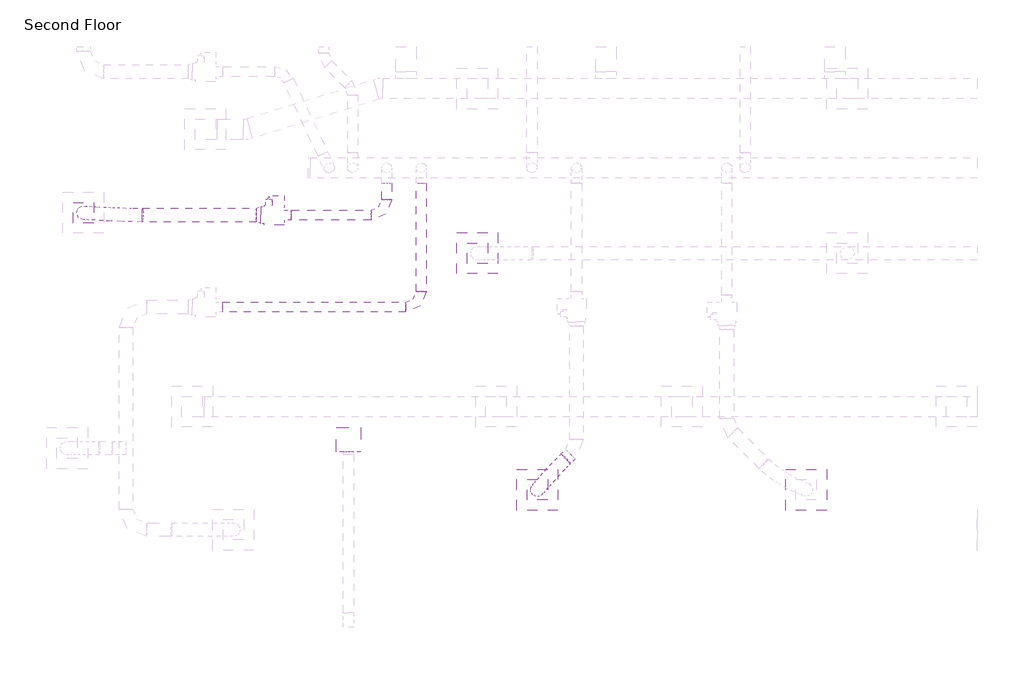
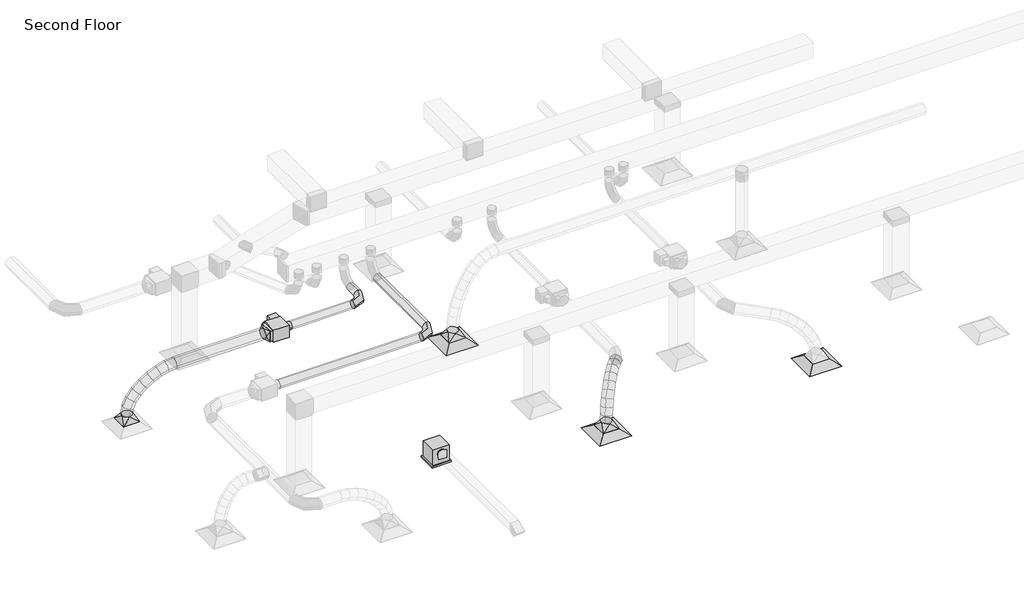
# One storey, part 2 of 44: 8 duct segments, 6 duct fittings, 3 air terminals, 2 proxies.
"""IFC4 building model written with IfcOpenShell, lengths in millimetres."""

from ifc_helpers import new_model, si_unit, point, frame, frame_2d, origin, place, context, project, spatial, circle_curve, ellipse_curve, trimmed, segment, composite_curve, outline, extrude, transform, mapped, element, save
from ifc_brep_helpers import plane_surface, cylinder_surface, advanced_brep
from components import m_exhaust_grill_er_600_x_600_face_300_x_300_connection_ff221211, proxy_47_84_lps_344db5a5, m_vav_unit_single_duct_150_mm_ffdab17b, m_rectangular_to_round_transition_angle_45_degree_60daae35, m_rectangular_to_round_transition_angle_45_degree_1b7ae117, m_round_elbow_1_5_d_2e586196

model = new_model("IFC4")

# Units and contexts
model_context = context("Model", 3, world=origin())
ifc_project = project(units=[si_unit("LENGTHUNIT", "METRE", prefix="MILLI")], contexts=[model_context])

# Site, building, storey
site = spatial("IfcSite", under=ifc_project)
building = spatial("IfcBuilding", under=site)
storey = spatial("IfcBuildingStorey", under=building, Name="Second Floor", Elevation=4570.0)

# Air terminals
placement = place(None, origin())
m_exhaust_grill_er_600_x_600_face_300_x_300_connection_shape = m_exhaust_grill_er_600_x_600_face_300_x_300_connection_ff221211(model_context)
element("IfcAirTerminal", 1, ObjectType="M_Supply Diffuser : SD-600 x 600 Face 300 x 300 Connection", at=placement, inside=storey, context=model_context, shape_type="MappedRepresentation", body=[
    mapped(m_exhaust_grill_er_600_x_600_face_300_x_300_connection_shape, transform((-35417.6922006, 11441.070624, 7250.0), x_axis=(1.0, 0.0, 0.0), y_axis=(0.0, 1.0, 0.0), z_axis=(0.0, 0.0, 1.0))),
])
element("IfcAirTerminal", 2, ObjectType="M_Supply Diffuser : SD-600 x 600 Face 300 x 300 Connection", at=placement, inside=storey, context=model_context, shape_type="MappedRepresentation", body=[
    mapped(m_exhaust_grill_er_600_x_600_face_300_x_300_connection_shape, transform((-39345.8517258, 11441.070624, 7250.0), x_axis=(1.0, 0.0, 0.0), y_axis=(0.0, 1.0, 0.0), z_axis=(0.0, 0.0, 1.0))),
])
element("IfcAirTerminal", 3, ObjectType="M_Supply Diffuser : SD-600 x 600 Face 300 x 300 Connection", at=placement, inside=storey, context=model_context, shape_type="MappedRepresentation", body=[
    mapped(m_exhaust_grill_er_600_x_600_face_300_x_300_connection_shape, transform((-40222.3950538, 14899.476398, 7250.0), x_axis=(1.0, 0.0, 0.0), y_axis=(0.0, 1.0, 0.0), z_axis=(0.0, 0.0, 1.0))),
])

# Proxies
proxy_47_84_lps_shape = proxy_47_84_lps_344db5a5(model_context)
element("IfcBuildingElementProxy", 4, Name="M_Exhaust Unit with Cabinet - Round Connection - Ceiling Mounted : 47-84 LPS", ObjectType="M_Exhaust Unit with Cabinet - Round Connection - Ceiling Mounted : 47-84 LPS", at=placement, inside=storey, context=model_context, shape_type="MappedRepresentation", body=[
    mapped(proxy_47_84_lps_shape, transform((-42106.048752, 12172.6249243, 7250.0), x_axis=(1.0, 0.0, 0.0), y_axis=(0.0, 1.0, 0.0), z_axis=(0.0, 0.0, 1.0))),
])
m_vav_unit_single_duct_150_mm_shape = m_vav_unit_single_duct_150_mm_ffdab17b(model_context)
element("IfcBuildingElementProxy", 5, Name="M_VAV Unit - Single Duct : 150 mm", ObjectType="M_VAV Unit - Single Duct : 150 mm", at=placement, inside=storey, context=model_context, shape_type="MappedRepresentation", body=[
    mapped(m_vav_unit_single_duct_150_mm_shape, transform((-43048.0, 15457.6375275, 8070.0), x_axis=(-1.0000000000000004, 0.0, 0.0), y_axis=(0.0, -1.0000000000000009, 0.0), z_axis=(0.0, 0.0, 1.0000000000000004))),
])

# Duct fittings
m_rectangular_to_round_transition_angle_45_degree_shape = m_rectangular_to_round_transition_angle_45_degree_60daae35(model_context)
element("IfcDuctFitting", 6, ObjectType="M_Rectangular to Round Transition - Angle : 45 Degree", at=placement, inside=storey, context=model_context, shape_type="MappedRepresentation", body=[
    mapped(m_rectangular_to_round_transition_angle_45_degree_shape, transform((-39345.8517258, 11441.070624, 7351.6), x_axis=(0.0, 0.0, 1.0), y_axis=(1.0, 0.0, 0.0), z_axis=(0.0, 1.0, 0.0))),
])
element("IfcDuctFitting", 7, ObjectType="M_Rectangular to Round Transition - Angle : 45 Degree", at=placement, inside=storey, context=model_context, shape_type="MappedRepresentation", body=[
    mapped(m_rectangular_to_round_transition_angle_45_degree_shape, transform((-45979.7910179, 15490.6820216, 7351.6), x_axis=(0.0, 0.0, 1.0), y_axis=(1.0, 0.0, 0.0), z_axis=(0.0, 1.0, 0.0))),
])
element("IfcDuctFitting", 8, ObjectType="M_Rectangular to Round Transition - Angle : 45 Degree", at=placement, inside=storey, context=model_context, shape_type="MappedRepresentation", body=[
    mapped(m_rectangular_to_round_transition_angle_45_degree_shape, transform((-40222.3950538, 14899.476398, 7351.6), x_axis=(0.0, 0.0, 1.0), y_axis=(1.0, 0.0, 0.0), z_axis=(0.0, 1.0, 0.0))),
])
m_rectangular_to_round_transition_angle_45_degree_2_shape = m_rectangular_to_round_transition_angle_45_degree_1b7ae117(model_context)
element("IfcDuctFitting", 9, ObjectType="M_Rectangular to Round Transition - Angle : 45 Degree", at=placement, inside=storey, context=model_context, shape_type="MappedRepresentation", body=[
    mapped(m_rectangular_to_round_transition_angle_45_degree_2_shape, transform((-43390.8, 15457.6375275, 8189.05), x_axis=(-1.0, 0.0, 0.0), y_axis=(0.0, -1.0, 0.0), z_axis=(0.0, 0.0, 1.0))),
])
m_round_elbow_1_5_d_shape = m_round_elbow_1_5_d_2e586196(model_context)
element("IfcDuctFitting", 10, ObjectType="M_Round Elbow : 1.5 D", at=placement, inside=storey, context=model_context, shape_type="MappedRepresentation", body=[
    mapped(m_round_elbow_1_5_d_shape, transform((-41548.0010046, 15456.7875275, 8179.5), x_axis=(0.9999999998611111, 0.0, -1.666666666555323e-05), y_axis=(0.0, 1.0, 0.0), z_axis=(1.666666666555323e-05, 0.0, 0.9999999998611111))),
])
element("IfcDuctFitting", 11, ObjectType="M_Round Elbow : 1.5 D", at=placement, inside=storey, context=model_context, shape_type="MappedRepresentation", body=[
    mapped(m_round_elbow_1_5_d_shape, transform((-41042.7292263, 14111.2279081, 8179.5), x_axis=(0.9999999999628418, 0.0, -8.620689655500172e-06), y_axis=(0.0, 1.0, 0.0), z_axis=(8.620689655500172e-06, 0.0, 0.9999999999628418))),
])

# Duct segments
element("IfcDuctSegment", 12, ObjectType="Flex - Round", at=placement, inside=storey, context=model_context, shape_type="AdvancedBrep", body=[
    advanced_brep(
    [(-38862.3813598, 11819.691739, 8189.1), (-38923.0789071, 11900.6154319, 8090.2710383), (-39005.1485679, 11959.7543118, 8189.1), (-38944.4510205, 11878.8306189, 8287.9289617), (-38943.2075766, 11737.3047523, 8171.2802632), (-38995.0788461, 11827.2251602, 8074.3972289), (-39087.052972, 11876.2683179, 8171.0425555), (-39035.1817024, 11786.34791, 8267.9255899), (-39272.6123821, 11372.9844274, 7472.8287172), (-39413.5702488, 11368.3101703, 7483.2705148), (-39419.0910695, 11509.1568206, 7471.792639), (-39278.1332028, 11513.8310777, 7461.3508415), (-39018.9595049, 11657.4544606, 8121.8440017), (-39056.3815011, 11762.6058826, 8034.3906686), (-39164.4254516, 11794.709799, 8120.5487104), (-39127.0034553, 11689.5583771, 8208.0020435), (-39088.4132241, 11582.1815593, 8046.110536), (-39115.6049703, 11698.4203731, 7969.812434), (-39234.7631864, 11718.4788149, 8043.8512997), (-39207.5714402, 11602.2400011, 8120.1494017), (-39149.5807202, 11514.3225429, 7949.7333697), (-39169.3630296, 11638.7813612, 7885.1097773), (-39296.32745, 11650.1796259, 7946.8489756), (-39276.5451406, 11525.7208076, 8011.472568), (-39200.5093922, 11456.6864417, 7838.4415251), (-39214.6283285, 11587.554513, 7786.1938147), (-39347.3441027, 11592.4439567, 7835.3648714), (-39333.2251663, 11461.5758855, 7887.6125817), (-39239.2782657, 11412.0533661, 7717.9673264), (-39248.8945196, 11548.1051982, 7679.7116929), (-39386.007378, 11547.9324521, 7715.2188185), (-39376.3911241, 11411.88062, 7753.474452), (-39263.9743172, 11383.1982832, 7594.009518), (-39270.1856861, 11523.2284127, 7572.8441502), (-39410.503559, 11519.3108998, 7592.2642283), (-39404.29219, 11379.2807703, 7613.429596)],
    [
        (0, 1, circle_curve(frame((-38933.7649638, 11889.7230254, 8189.1), z_axis=(0.6921119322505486, 0.7054767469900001, 0.1525897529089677), x_axis=(0.7138360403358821, -0.7003128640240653, 0.0)), 100.0)),
        (1, 2, circle_curve(frame((-38933.7649638, 11889.7230254, 8189.1), z_axis=(0.6921119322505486, 0.7054767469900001, 0.1525897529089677), x_axis=(0.7138360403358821, -0.7003128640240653, 0.0)), 100.0)),
        (2, 3, circle_curve(frame((-38933.7649638, 11889.7230254, 8189.1), z_axis=(0.6921119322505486, 0.7054767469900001, 0.1525897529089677), x_axis=(0.7138360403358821, -0.7003128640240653, 0.0)), 100.0)),
        (3, 0, circle_curve(frame((-38933.7649638, 11889.7230254, 8189.1), z_axis=(0.6921119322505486, 0.7054767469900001, 0.1525897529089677), x_axis=(0.7138360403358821, -0.7003128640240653, 0.0)), 100.0)),
        (0, 4),
        (4, 5, ellipse_curve(frame((-39015.1302743, 11806.7865351, 8171.1614094), z_axis=(0.6660021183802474, 0.6898842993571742, 0.2837266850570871), x_axis=(0.2393266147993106, 0.16263210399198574, -0.957221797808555)), 100.9143721, 100.0)),
        (5, 1),
        (5, 6, ellipse_curve(frame((-39015.1302743, 11806.7865351, 8171.1614094), z_axis=(0.6660021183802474, 0.6898842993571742, 0.2837266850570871), x_axis=(0.2393266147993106, 0.16263210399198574, -0.957221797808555)), 100.9143721, 100.0)),
        (6, 2),
        (6, 7, ellipse_curve(frame((-39015.1302743, 11806.7865351, 8171.1614094), z_axis=(0.6660021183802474, 0.6898842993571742, 0.2837266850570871), x_axis=(0.2393266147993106, 0.16263210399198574, -0.957221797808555)), 100.9143721, 100.0)),
        (7, 3),
        (7, 4, ellipse_curve(frame((-39015.1302743, 11806.7865351, 8171.1614094), z_axis=(0.6660021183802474, 0.6898842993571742, 0.2837266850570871), x_axis=(0.2393266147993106, 0.16263210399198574, -0.957221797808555)), 100.9143721, 100.0)),
        (8, 9, circle_curve(frame((-39345.8517258, 11441.070624, 7472.3106781), z_axis=(-0.07085208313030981, -0.08377720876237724, -0.9939624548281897), x_axis=(0.7323934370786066, -0.6808619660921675, 0.005180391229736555)), 100.0)),
        (9, 10, circle_curve(frame((-39345.8517258, 11441.070624, 7472.3106781), z_axis=(-0.07085208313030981, -0.08377720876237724, -0.9939624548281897), x_axis=(0.7323934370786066, -0.6808619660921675, 0.005180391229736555)), 100.0)),
        (10, 11, circle_curve(frame((-39345.8517258, 11441.070624, 7472.3106781), z_axis=(-0.07085208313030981, -0.08377720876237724, -0.9939624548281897), x_axis=(0.7323934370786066, -0.6808619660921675, 0.005180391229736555)), 100.0)),
        (11, 8, circle_curve(frame((-39345.8517258, 11441.070624, 7472.3106781), z_axis=(-0.07085208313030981, -0.08377720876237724, -0.9939624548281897), x_axis=(0.7323934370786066, -0.6808619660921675, 0.005180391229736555)), 100.0)),
        (4, 12),
        (12, 13, ellipse_curve(frame((-39091.6924782, 11726.0821298, 8121.1963561), z_axis=(0.5899400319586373, 0.6299964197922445, 0.505049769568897), x_axis=(0.3849844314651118, 0.3303525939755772, -0.861773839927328)), 100.5800121, 100.0)),
        (13, 5),
        (13, 14, ellipse_curve(frame((-39091.6924782, 11726.0821298, 8121.1963561), z_axis=(0.5899400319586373, 0.6299964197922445, 0.505049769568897), x_axis=(0.3849844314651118, 0.3303525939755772, -0.861773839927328)), 100.5800121, 100.0)),
        (14, 6),
        (14, 15, ellipse_curve(frame((-39091.6924782, 11726.0821298, 8121.1963561), z_axis=(0.5899400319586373, 0.6299964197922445, 0.505049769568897), x_axis=(0.3849844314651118, 0.3303525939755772, -0.861773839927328)), 100.5800121, 100.0)),
        (15, 7),
        (15, 12, ellipse_curve(frame((-39091.6924782, 11726.0821298, 8121.1963561), z_axis=(0.5899400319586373, 0.6299964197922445, 0.505049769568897), x_axis=(0.3849844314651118, 0.3303525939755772, -0.861773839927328)), 100.5800121, 100.0)),
        (12, 16),
        (16, 17, ellipse_curve(frame((-39161.5882053, 11650.3301871, 8044.9809179), z_axis=(0.5048775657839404, 0.5531000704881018, 0.6627057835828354), x_axis=(0.48254715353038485, 0.4557218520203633, -0.7479744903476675)), 100.3868229, 100.0)),
        (17, 13),
        (17, 18, ellipse_curve(frame((-39161.5882053, 11650.3301871, 8044.9809179), z_axis=(0.5048775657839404, 0.5531000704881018, 0.6627057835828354), x_axis=(0.48254715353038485, 0.4557218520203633, -0.7479744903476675)), 100.3868229, 100.0)),
        (18, 14),
        (18, 19, ellipse_curve(frame((-39161.5882053, 11650.3301871, 8044.9809179), z_axis=(0.5048775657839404, 0.5531000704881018, 0.6627057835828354), x_axis=(0.48254715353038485, 0.4557218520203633, -0.7479744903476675)), 100.3868229, 100.0)),
        (19, 15),
        (19, 16, ellipse_curve(frame((-39161.5882053, 11650.3301871, 8044.9809179), z_axis=(0.5048775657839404, 0.5531000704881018, 0.6627057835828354), x_axis=(0.48254715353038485, 0.4557218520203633, -0.7479744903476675)), 100.3868229, 100.0)),
        (16, 20),
        (20, 21, ellipse_curve(frame((-39222.9540851, 11582.2510844, 7948.2911726), z_axis=(0.4197805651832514, 0.46991425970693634, 0.7765081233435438), x_axis=(0.5467300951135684, 0.551983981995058, -0.6296029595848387)), 100.2974551, 100.0)),
        (21, 17),
        (21, 22, ellipse_curve(frame((-39222.9540851, 11582.2510844, 7948.2911726), z_axis=(0.4197805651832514, 0.46991425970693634, 0.7765081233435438), x_axis=(0.5467300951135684, 0.551983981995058, -0.6296029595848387)), 100.2974551, 100.0)),
        (22, 18),
        (22, 23, ellipse_curve(frame((-39222.9540851, 11582.2510844, 7948.2911726), z_axis=(0.4197805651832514, 0.46991425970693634, 0.7765081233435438), x_axis=(0.5467300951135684, 0.551983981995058, -0.6296029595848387)), 100.2974551, 100.0)),
        (23, 19),
        (23, 20, ellipse_curve(frame((-39222.9540851, 11582.2510844, 7948.2911726), z_axis=(0.4197805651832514, 0.46991425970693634, 0.7765081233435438), x_axis=(0.5467300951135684, 0.551983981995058, -0.6296029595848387)), 100.2974551, 100.0)),
        (20, 24),
        (24, 25, ellipse_curve(frame((-39273.9267474, 11524.5651992, 7836.9031982), z_axis=(0.33359642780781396, 0.3803648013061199, 0.8625752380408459), x_axis=(0.589881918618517, 0.6295091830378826, -0.5057247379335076)), 100.2766071, 100.0)),
        (25, 21),
        (25, 26, ellipse_curve(frame((-39273.9267474, 11524.5651992, 7836.9031982), z_axis=(0.33359642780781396, 0.3803648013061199, 0.8625752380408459), x_axis=(0.589881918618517, 0.6295091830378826, -0.5057247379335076)), 100.2766071, 100.0)),
        (26, 22),
        (26, 27, ellipse_curve(frame((-39273.9267474, 11524.5651992, 7836.9031982), z_axis=(0.33359642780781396, 0.3803648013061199, 0.8625752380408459), x_axis=(0.589881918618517, 0.6295091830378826, -0.5057247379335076)), 100.2766071, 100.0)),
        (27, 23),
        (27, 24, ellipse_curve(frame((-39273.9267474, 11524.5651992, 7836.9031982), z_axis=(0.33359642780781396, 0.3803648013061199, 0.8625752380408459), x_axis=(0.589881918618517, 0.6295091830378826, -0.5057247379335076)), 100.2766071, 100.0)),
        (24, 28),
        (28, 29, ellipse_curve(frame((-39312.6428218, 11479.9929091, 7716.5930724), z_axis=(0.24044909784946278, 0.27845800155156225, 0.9298630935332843), x_axis=(0.6199117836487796, 0.6931019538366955, -0.3678573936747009)), 100.3164707, 100.0)),
        (29, 25),
        (29, 30, ellipse_curve(frame((-39312.6428218, 11479.9929091, 7716.5930724), z_axis=(0.24044909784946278, 0.27845800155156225, 0.9298630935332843), x_axis=(0.6199117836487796, 0.6931019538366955, -0.3678573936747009)), 100.3164707, 100.0)),
        (30, 26),
        (30, 31, ellipse_curve(frame((-39312.6428218, 11479.9929091, 7716.5930724), z_axis=(0.24044909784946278, 0.27845800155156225, 0.9298630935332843), x_axis=(0.6199117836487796, 0.6931019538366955, -0.3678573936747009)), 100.3164707, 100.0)),
        (31, 27),
        (31, 28, ellipse_curve(frame((-39312.6428218, 11479.9929091, 7716.5930724), z_axis=(0.24044909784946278, 0.27845800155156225, 0.9298630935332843), x_axis=(0.6199117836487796, 0.6931019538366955, -0.3678573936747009)), 100.3164707, 100.0)),
        (28, 32),
        (32, 33, ellipse_curve(frame((-39337.2389381, 11451.2545915, 7593.1368731), z_axis=(0.13124590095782, 0.15384755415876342, 0.9793392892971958), x_axis=(0.639415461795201, 0.7417913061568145, -0.20222147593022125)), 100.440487, 100.0)),
        (33, 29),
        (33, 34, ellipse_curve(frame((-39337.2389381, 11451.2545915, 7593.1368731), z_axis=(0.13124590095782, 0.15384755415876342, 0.9793392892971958), x_axis=(0.639415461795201, 0.7417913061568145, -0.20222147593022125)), 100.440487, 100.0)),
        (34, 30),
        (34, 35, ellipse_curve(frame((-39337.2389381, 11451.2545915, 7593.1368731), z_axis=(0.13124590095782, 0.15384755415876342, 0.9793392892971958), x_axis=(0.639415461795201, 0.7417913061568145, -0.20222147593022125)), 100.440487, 100.0)),
        (35, 31),
        (35, 32, ellipse_curve(frame((-39337.2389381, 11451.2545915, 7593.1368731), z_axis=(0.13124590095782, 0.15384755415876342, 0.9793392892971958), x_axis=(0.639415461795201, 0.7417913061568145, -0.20222147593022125)), 100.440487, 100.0)),
        (32, 8),
        (11, 33),
        (10, 34),
        (9, 35),
    ],
    [
        plane_surface(frame((-38933.7649638, 11910.8634836, 8091.3601359), z_axis=(0.6921119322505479, 0.7054767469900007, 0.1525897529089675), x_axis=(0.7217901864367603, -0.6764692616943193, -0.14631563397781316))),
        cylinder_surface(frame((-38933.7649638, 11889.7230254, 8189.1), z_axis=(0.6921119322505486, 0.7054767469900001, 0.1525897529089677), x_axis=(0.7138360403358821, -0.7003128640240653, 0.0)), 100.0),
        plane_surface(frame((-39345.8517258, 11540.7172982, 7463.9118496), z_axis=(-0.0708520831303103, -0.08377720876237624, -0.9939624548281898), x_axis=(0.9974868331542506, -0.00595074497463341, -0.0706017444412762))),
        cylinder_surface(frame((-39015.1302743, 11806.7865351, 8171.1614094), z_axis=(0.6278231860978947, 0.6617899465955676, 0.4097219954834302), x_axis=(0.7241171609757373, -0.6896630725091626, 0.004379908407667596)), 100.0),
        cylinder_surface(frame((-39091.6924782, 11726.0821298, 8121.1963561), z_axis=(0.5452528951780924, 0.5909369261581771, 0.594552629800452), x_axis=(0.7301197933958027, -0.6832528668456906, 0.009518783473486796)), 100.0),
        cylinder_surface(frame((-39161.5882053, 11650.3301871, 8044.9809179), z_axis=(0.4606113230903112, 0.5110006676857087, 0.7257516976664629), x_axis=(0.7331267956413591, -0.6799586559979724, 0.013465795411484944)), 100.0),
        cylinder_surface(frame((-39222.9540851, 11582.2510844, 7948.2911726), z_axis=(0.3764598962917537, 0.4260405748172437, 0.8226587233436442), x_axis=(0.734229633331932, -0.6787241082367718, 0.015505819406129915)), 100.0),
        cylinder_surface(frame((-39273.9267474, 11524.5651992, 7836.9031982), z_axis=(0.2888925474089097, 0.3325906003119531, 0.8977330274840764), x_axis=(0.7341305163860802, -0.6788371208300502, 0.015249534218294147)), 100.0),
        cylinder_surface(frame((-39312.6428218, 11479.9929091, 7716.5930724), z_axis=(0.19048854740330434, 0.22256848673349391, 0.9561262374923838), x_axis=(0.7333257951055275, -0.679769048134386, 0.012137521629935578)), 100.0),
        cylinder_surface(frame((-39337.2389381, 11451.2545915, 7593.1368731), z_axis=(0.07085208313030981, 0.08377720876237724, 0.9939624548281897), x_axis=(0.7323934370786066, -0.6808619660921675, 0.005180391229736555)), 100.0),
    ],
    [
        (0, [[1, 2, 3, 4]]),
        (1, [[-1, 5, 6, 7]]),
        (1, [[-2, -7, 8, 9]]),
        (1, [[-3, -9, 10, 11]]),
        (1, [[-4, -11, 12, -5]]),
        (2, [[13, 14, 15, 16]]),
        (3, [[-6, 17, 18, 19]]),
        (3, [[-8, -19, 20, 21]]),
        (3, [[-10, -21, 22, 23]]),
        (3, [[-12, -23, 24, -17]]),
        (4, [[-18, 25, 26, 27]]),
        (4, [[-20, -27, 28, 29]]),
        (4, [[-22, -29, 30, 31]]),
        (4, [[-24, -31, 32, -25]]),
        (5, [[-26, 33, 34, 35]]),
        (5, [[-28, -35, 36, 37]]),
        (5, [[-30, -37, 38, 39]]),
        (5, [[-32, -39, 40, -33]]),
        (6, [[-34, 41, 42, 43]]),
        (6, [[-36, -43, 44, 45]]),
        (6, [[-38, -45, 46, 47]]),
        (6, [[-40, -47, 48, -41]]),
        (7, [[-42, 49, 50, 51]]),
        (7, [[-44, -51, 52, 53]]),
        (7, [[-46, -53, 54, 55]]),
        (7, [[-48, -55, 56, -49]]),
        (8, [[-50, 57, 58, 59]]),
        (8, [[-52, -59, 60, 61]]),
        (8, [[-54, -61, 62, 63]]),
        (8, [[-56, -63, 64, -57]]),
        (9, [[-58, 65, -16, 66]]),
        (9, [[-60, -66, -15, 67]]),
        (9, [[-62, -67, -14, 68]]),
        (9, [[-64, -68, -13, -65]]),
    ],
),
])
element("IfcDuctSegment", 13, ObjectType="Flex - Round", at=placement, inside=storey, context=model_context, shape_type="AdvancedBrep", body=[
    advanced_brep(
    [(-45118.5957341, 15357.6423617, 8189.1), (-45106.9652951, 15457.5328326, 8089.6684823), (-45116.6292053, 15557.6326934, 8189.1), (-45128.2596443, 15457.7422225, 8288.5315177), (-45263.7357125, 15359.0695404, 8173.5568388), (-45242.2980662, 15458.8635759, 8075.1755831), (-45260.2847784, 15559.0452758, 8173.715805), (-45281.7224246, 15459.2512403, 8272.0970607), (-45983.674587, 15390.7583293, 7471.894002), (-46078.5023269, 15494.4536216, 7487.8622865), (-45975.9074489, 15590.6057138, 7472.7273542), (-45881.079709, 15486.9104215, 7456.7590697), (-45412.9780121, 15362.8428063, 8129.250678), (-45374.1670425, 15462.1975952, 8036.0271106), (-45407.1583346, 15562.7586531, 8130.1128626), (-45445.9693042, 15463.4038642, 8223.33643), (-45558.3530267, 15368.1614014, 8060.1179546), (-45505.1777697, 15466.9906679, 7973.725288), (-45551.0949117, 15568.0246225, 8061.6641845), (-45604.2701687, 15469.195356, 8148.0568511), (-45692.9351279, 15374.2458284, 7969.8838594), (-45626.8813683, 15472.4928607, 7892.1259222), (-45684.8955695, 15574.0737207, 7971.9540285), (-45750.9493291, 15475.8266884, 8049.7119657), (-45809.7404844, 15380.3199065, 7862.255408), (-45731.3582912, 15477.9258391, 7795.8573113), (-45801.4195708, 15580.1331678, 7864.5848274), (-45879.801764, 15482.5272351, 7930.9829241), (-45901.760067, 15385.6089636, 7740.9585694), (-45811.4406522, 15482.5287744, 7690.2956804), (-45893.5513762, 15585.4286752, 7743.1400609), (-45983.870791, 15488.5088644, 7793.8029499), (-45962.009894, 15389.3414688, 7609.7507418), (-45861.5164097, 15485.6309911, 7581.2442242), (-45954.150399, 15589.1828132, 7611.1717792), (-46054.6438832, 15492.8932908, 7639.6782969)],
    [
        (0, 1, circle_curve(frame((-45117.6124697, 15457.6375275, 8189.1), z_axis=(0.9942671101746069, -0.009776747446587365, 0.10647689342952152), x_axis=(-0.009832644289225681, -0.999951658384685, 0.0)), 100.0)),
        (1, 2, circle_curve(frame((-45117.6124697, 15457.6375275, 8189.1), z_axis=(0.9942671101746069, -0.009776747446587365, 0.10647689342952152), x_axis=(-0.009832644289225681, -0.999951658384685, 0.0)), 100.0)),
        (2, 3, circle_curve(frame((-45117.6124697, 15457.6375275, 8189.1), z_axis=(0.9942671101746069, -0.009776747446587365, 0.10647689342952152), x_axis=(-0.009832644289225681, -0.999951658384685, 0.0)), 100.0)),
        (3, 0, circle_curve(frame((-45117.6124697, 15457.6375275, 8189.1), z_axis=(0.9942671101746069, -0.009776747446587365, 0.10647689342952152), x_axis=(-0.009832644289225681, -0.999951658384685, 0.0)), 100.0)),
        (0, 4),
        (4, 5, ellipse_curve(frame((-45262.0102454, 15459.0574081, 8173.6363219), z_axis=(0.9803928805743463, -0.017074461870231, 0.19631164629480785), x_axis=(0.19704964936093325, 0.07932954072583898, -0.9771787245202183)), 100.4175378, 100.0)),
        (5, 1),
        (5, 6, ellipse_curve(frame((-45262.0102454, 15459.0574081, 8173.6363219), z_axis=(0.9803928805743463, -0.017074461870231, 0.19631164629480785), x_axis=(0.19704964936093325, 0.07932954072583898, -0.9771787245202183)), 100.4175378, 100.0)),
        (6, 2),
        (6, 7, ellipse_curve(frame((-45262.0102454, 15459.0574081, 8173.6363219), z_axis=(0.9803928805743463, -0.017074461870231, 0.19631164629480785), x_axis=(0.19704964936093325, 0.07932954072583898, -0.9771787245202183)), 100.4175378, 100.0)),
        (7, 3),
        (7, 4, ellipse_curve(frame((-45262.0102454, 15459.0574081, 8173.6363219), z_axis=(0.9803928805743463, -0.017074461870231, 0.19631164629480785), x_axis=(0.19704964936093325, 0.07932954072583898, -0.9771787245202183)), 100.4175378, 100.0)),
        (8, 9, circle_curve(frame((-45979.7910179, 15490.6820216, 7472.3106781), z_axis=(-0.1552402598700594, 0.010152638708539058, -0.987824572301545), x_axis=(-0.038835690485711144, -0.9992369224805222, -0.004166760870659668)), 100.0)),
        (9, 10, circle_curve(frame((-45979.7910179, 15490.6820216, 7472.3106781), z_axis=(-0.1552402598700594, 0.010152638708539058, -0.987824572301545), x_axis=(-0.038835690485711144, -0.9992369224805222, -0.004166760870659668)), 100.0)),
        (10, 11, circle_curve(frame((-45979.7910179, 15490.6820216, 7472.3106781), z_axis=(-0.1552402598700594, 0.010152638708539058, -0.987824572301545), x_axis=(-0.038835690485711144, -0.9992369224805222, -0.004166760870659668)), 100.0)),
        (11, 8, circle_curve(frame((-45979.7910179, 15490.6820216, 7472.3106781), z_axis=(-0.1552402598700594, 0.010152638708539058, -0.987824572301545), x_axis=(-0.038835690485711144, -0.9992369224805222, -0.004166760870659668)), 100.0)),
        (4, 12),
        (12, 13, ellipse_curve(frame((-45410.0681734, 15462.8007297, 8129.6817703), z_axis=(0.9332987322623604, -0.028712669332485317, 0.3579511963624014), x_axis=(0.35904227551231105, 0.05659648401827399, -0.9316037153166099)), 100.3029895, 100.0)),
        (13, 5),
        (13, 14, ellipse_curve(frame((-45410.0681734, 15462.8007297, 8129.6817703), z_axis=(0.9332987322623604, -0.028712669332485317, 0.3579511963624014), x_axis=(0.35904227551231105, 0.05659648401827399, -0.9316037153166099)), 100.3029895, 100.0)),
        (14, 6),
        (14, 15, ellipse_curve(frame((-45410.0681734, 15462.8007297, 8129.6817703), z_axis=(0.9332987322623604, -0.028712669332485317, 0.3579511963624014), x_axis=(0.35904227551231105, 0.05659648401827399, -0.9316037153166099)), 100.3029895, 100.0)),
        (15, 7),
        (15, 12, ellipse_curve(frame((-45410.0681734, 15462.8007297, 8129.6817703), z_axis=(0.9332987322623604, -0.028712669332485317, 0.3579511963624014), x_axis=(0.35904227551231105, 0.05659648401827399, -0.9316037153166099)), 100.3029895, 100.0)),
        (12, 16),
        (16, 17, ellipse_curve(frame((-45554.7239692, 15468.093012, 8060.8910696), z_axis=(0.868633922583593, -0.03536807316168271, 0.4941904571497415), x_axis=(0.4952110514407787, 0.03071582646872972, -0.8682295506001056)), 100.2696817, 100.0)),
        (17, 13),
        (17, 18, ellipse_curve(frame((-45554.7239692, 15468.093012, 8060.8910696), z_axis=(0.868633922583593, -0.03536807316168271, 0.4941904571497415), x_axis=(0.4952110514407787, 0.03071582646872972, -0.8682295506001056)), 100.2696817, 100.0)),
        (18, 14),
        (18, 19, ellipse_curve(frame((-45554.7239692, 15468.093012, 8060.8910696), z_axis=(0.868633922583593, -0.03536807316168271, 0.4941904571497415), x_axis=(0.4952110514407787, 0.03071582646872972, -0.8682295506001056)), 100.2696817, 100.0)),
        (19, 15),
        (19, 16, ellipse_curve(frame((-45554.7239692, 15468.093012, 8060.8910696), z_axis=(0.868633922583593, -0.03536807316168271, 0.4941904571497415), x_axis=(0.4952110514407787, 0.03071582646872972, -0.8682295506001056)), 100.2696817, 100.0)),
        (16, 20),
        (20, 21, ellipse_curve(frame((-45688.9153487, 15474.1597745, 7970.9189439), z_axis=(0.7847539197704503, -0.03798153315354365, 0.6186426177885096), x_axis=(0.6192171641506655, 0.004492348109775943, -0.7852069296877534)), 100.2963621, 100.0)),
        (21, 17),
        (21, 22, ellipse_curve(frame((-45688.9153487, 15474.1597745, 7970.9189439), z_axis=(0.7847539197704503, -0.03798153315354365, 0.6186426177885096), x_axis=(0.6192171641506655, 0.004492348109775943, -0.7852069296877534)), 100.2963621, 100.0)),
        (22, 18),
        (22, 23, ellipse_curve(frame((-45688.9153487, 15474.1597745, 7970.9189439), z_axis=(0.7847539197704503, -0.03798153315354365, 0.6186426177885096), x_axis=(0.6192171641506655, 0.004492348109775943, -0.7852069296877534)), 100.2963621, 100.0)),
        (23, 19),
        (23, 20, ellipse_curve(frame((-45688.9153487, 15474.1597745, 7970.9189439), z_axis=(0.7847539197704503, -0.03798153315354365, 0.6186426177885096), x_axis=(0.6192171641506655, 0.004492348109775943, -0.7852069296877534)), 100.2963621, 100.0)),
        (20, 24),
        (24, 25, ellipse_curve(frame((-45805.5800276, 15480.2265371, 7863.4201177), z_axis=(0.6720833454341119, -0.03660976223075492, 0.7395699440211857), x_axis=(0.7394345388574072, -0.019759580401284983, -0.6729384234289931)), 100.3936899, 100.0)),
        (25, 21),
        (25, 26, ellipse_curve(frame((-45805.5800276, 15480.2265371, 7863.4201177), z_axis=(0.6720833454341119, -0.03660976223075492, 0.7395699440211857), x_axis=(0.7394345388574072, -0.019759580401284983, -0.6729384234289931)), 100.3936899, 100.0)),
        (26, 22),
        (26, 27, ellipse_curve(frame((-45805.5800276, 15480.2265371, 7863.4201177), z_axis=(0.6720833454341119, -0.03660976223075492, 0.7395699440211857), x_axis=(0.7394345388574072, -0.019759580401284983, -0.6729384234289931)), 100.3936899, 100.0)),
        (27, 23),
        (27, 24, ellipse_curve(frame((-45805.5800276, 15480.2265371, 7863.4201177), z_axis=(0.6720833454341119, -0.03660976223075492, 0.7395699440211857), x_axis=(0.7394345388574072, -0.019759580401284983, -0.6729384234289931)), 100.3936899, 100.0)),
        (24, 28),
        (28, 29, ellipse_curve(frame((-45897.6557216, 15485.5188194, 7742.0493152), z_axis=(0.5136598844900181, -0.03046246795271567, 0.8574529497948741), x_axis=(0.8565033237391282, -0.04067709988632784, -0.514536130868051)), 100.6003575, 100.0)),
        (29, 25),
        (29, 30, ellipse_curve(frame((-45897.6557216, 15485.5188194, 7742.0493152), z_axis=(0.5136598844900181, -0.03046246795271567, 0.8574529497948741), x_axis=(0.8565033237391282, -0.04067709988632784, -0.514536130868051)), 100.6003575, 100.0)),
        (30, 26),
        (30, 31, ellipse_curve(frame((-45897.6557216, 15485.5188194, 7742.0493152), z_axis=(0.5136598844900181, -0.03046246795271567, 0.8574529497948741), x_axis=(0.8565033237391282, -0.04067709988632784, -0.514536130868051)), 100.6003575, 100.0)),
        (31, 27),
        (31, 28, ellipse_curve(frame((-45897.6557216, 15485.5188194, 7742.0493152), z_axis=(0.5136598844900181, -0.03046246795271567, 0.8574529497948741), x_axis=(0.8565033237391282, -0.04067709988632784, -0.514536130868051)), 100.6003575, 100.0)),
        (28, 32),
        (32, 33, ellipse_curve(frame((-45958.0801465, 15489.262141, 7610.4612605), z_axis=(0.28892773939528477, -0.01816947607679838, 0.9571784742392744), x_axis=(0.9554658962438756, -0.05723835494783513, -0.2894973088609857)), 100.952782, 100.0)),
        (33, 29),
        (33, 34, ellipse_curve(frame((-45958.0801465, 15489.262141, 7610.4612605), z_axis=(0.28892773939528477, -0.01816947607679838, 0.9571784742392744), x_axis=(0.9554658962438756, -0.05723835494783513, -0.2894973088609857)), 100.952782, 100.0)),
        (34, 30),
        (34, 35, ellipse_curve(frame((-45958.0801465, 15489.262141, 7610.4612605), z_axis=(0.28892773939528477, -0.01816947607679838, 0.9571784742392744), x_axis=(0.9554658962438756, -0.05723835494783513, -0.2894973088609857)), 100.952782, 100.0)),
        (35, 31),
        (35, 32, ellipse_curve(frame((-45958.0801465, 15489.262141, 7610.4612605), z_axis=(0.28892773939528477, -0.01816947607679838, 0.9571784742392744), x_axis=(0.9554658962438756, -0.05723835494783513, -0.2894973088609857)), 100.952782, 100.0)),
        (32, 8),
        (11, 33),
        (10, 34),
        (9, 35),
    ],
    [
        plane_surface(frame((-45117.6124697, 15557.2186255, 8198.243573), z_axis=(0.9942671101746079, -0.009776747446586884, 0.1064768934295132), x_axis=(0.10692480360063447, 0.09091153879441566, -0.9901021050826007))),
        cylinder_surface(frame((-45117.6124697, 15457.6375275, 8189.1), z_axis=(0.9942671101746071, -0.009776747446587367, 0.10647689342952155), x_axis=(-0.009832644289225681, -0.999951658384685, 0.0)), 100.0),
        plane_surface(frame((-45979.7910179, 15590.6767404, 7473.3384013), z_axis=(-0.15524025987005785, 0.010152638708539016, -0.9878245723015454), x_axis=(0.987876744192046, 0.0015954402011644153, -0.15523206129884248))),
        cylinder_surface(frame((-45262.0102454, 15459.0574081, 8173.6363219), z_axis=(0.9583656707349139, -0.02423018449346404, 0.28451386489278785), x_axis=(-0.024408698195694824, -0.9996978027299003, -0.002918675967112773)), 100.0),
        cylinder_surface(frame((-45410.0681734, 15462.8007297, 8129.6817703), z_axis=(0.9025932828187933, -0.03302168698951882, 0.42922597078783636), x_axis=(-0.033515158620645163, -0.9994176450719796, -0.006411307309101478)), 100.0),
        cylinder_surface(frame((-45554.7239692, 15468.093012, 8060.8910696), z_axis=(0.8300020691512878, -0.03752420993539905, 0.5564966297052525), x_axis=(-0.038842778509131, -0.9992007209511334, -0.009442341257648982)), 100.0),
        cylinder_surface(frame((-45688.9153487, 15474.1597745, 7970.9189439), z_axis=(0.7348680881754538, -0.03821439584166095, 0.6771325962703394), x_axis=(-0.04139749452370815, -0.9990770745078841, -0.011456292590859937)), 100.0),
        cylinder_surface(frame((-45805.5800276, 15480.2265371, 7863.4201177), z_axis=(0.6040275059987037, -0.034718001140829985, 0.7962069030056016), x_axis=(-0.04177477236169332, -0.9990565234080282, -0.011871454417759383)), 100.0),
        cylinder_surface(frame((-45897.6557216, 15485.5188194, 7742.0493152), z_axis=(0.4171614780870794, -0.025843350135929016, 0.908464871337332), x_axis=(-0.040538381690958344, -0.99912984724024, -0.009807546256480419)), 100.0),
        cylinder_surface(frame((-45958.0801465, 15489.262141, 7610.4612605), z_axis=(0.15524025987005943, -0.01015263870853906, 0.9878245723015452), x_axis=(-0.038835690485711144, -0.9992369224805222, -0.004166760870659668)), 100.0),
    ],
    [
        (0, [[1, 2, 3, 4]]),
        (1, [[-1, 5, 6, 7]]),
        (1, [[-2, -7, 8, 9]]),
        (1, [[-3, -9, 10, 11]]),
        (1, [[-4, -11, 12, -5]]),
        (2, [[13, 14, 15, 16]]),
        (3, [[-6, 17, 18, 19]]),
        (3, [[-8, -19, 20, 21]]),
        (3, [[-10, -21, 22, 23]]),
        (3, [[-12, -23, 24, -17]]),
        (4, [[-18, 25, 26, 27]]),
        (4, [[-20, -27, 28, 29]]),
        (4, [[-22, -29, 30, 31]]),
        (4, [[-24, -31, 32, -25]]),
        (5, [[-26, 33, 34, 35]]),
        (5, [[-28, -35, 36, 37]]),
        (5, [[-30, -37, 38, 39]]),
        (5, [[-32, -39, 40, -33]]),
        (6, [[-34, 41, 42, 43]]),
        (6, [[-36, -43, 44, 45]]),
        (6, [[-38, -45, 46, 47]]),
        (6, [[-40, -47, 48, -41]]),
        (7, [[-42, 49, 50, 51]]),
        (7, [[-44, -51, 52, 53]]),
        (7, [[-46, -53, 54, 55]]),
        (7, [[-48, -55, 56, -49]]),
        (8, [[-50, 57, 58, 59]]),
        (8, [[-52, -59, 60, 61]]),
        (8, [[-54, -61, 62, 63]]),
        (8, [[-56, -63, 64, -57]]),
        (9, [[-58, 65, -16, 66]]),
        (9, [[-60, -66, -15, 67]]),
        (9, [[-62, -67, -14, 68]]),
        (9, [[-64, -68, -13, -65]]),
    ],
),
])
element("IfcDuctSegment", 14, ObjectType="Taps", at=placement, inside=storey, context=model_context, shape_type="SweptSolid", body=[
    extrude(outline(composite_curve([segment(trimmed(circle_curve(frame_2d((0.0, -100.0)), 100.0), [point((-100.0, -100.0))], [point((0.0, 0.0))], False, "CARTESIAN"), True, "CONTINUOUS"), segment(trimmed(circle_curve(frame_2d((0.0, -100.0)), 100.0), [point((0.0, 0.0))], [point((100.0, -100.0))], False, "CARTESIAN"), True, "CONTINUOUS"), segment(trimmed(circle_curve(frame_2d((0.0, -100.0)), 100.0), [point((100.0, -100.0))], [point((0.0, -200.0))], False, "CARTESIAN"), True, "CONTINUOUS"), segment(trimmed(circle_curve(frame_2d((0.0, -100.0)), 100.0), [point((0.0, -200.0))], [point((-100.0, -100.0))], False, "CARTESIAN"), True, "CONTINUOUS")], self_intersect=False)), frame((-38933.7649638, 11889.7230254, 8089.1), z_axis=(0.7071067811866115, 0.7071067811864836, 0.0), x_axis=(0.7071067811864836, -0.7071067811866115, 0.0)), (0.0, 0.0, 1.0), 100.0837022),
])
element("IfcDuctSegment", 15, ObjectType="Taps", at=placement, inside=storey, context=model_context, shape_type="SweptSolid", body=[
    extrude(outline(composite_curve([segment(trimmed(circle_curve(frame_2d((15457.6375275, 8189.1)), 100.0), [point((15557.6375275, 8189.1))], [point((15457.6375275, 8089.1))], False, "CARTESIAN"), True, "CONTINUOUS"), segment(trimmed(circle_curve(frame_2d((15457.6375275, 8189.1)), 100.0), [point((15457.6375275, 8089.1))], [point((15357.6375275, 8189.1))], False, "CARTESIAN"), True, "CONTINUOUS"), segment(trimmed(circle_curve(frame_2d((15457.6375275, 8189.1)), 100.0), [point((15357.6375275, 8189.1))], [point((15457.6375275, 8289.1))], False, "CARTESIAN"), True, "CONTINUOUS"), segment(trimmed(circle_curve(frame_2d((15457.6375275, 8189.1)), 100.0), [point((15457.6375275, 8289.1))], [point((15557.6375275, 8189.1))], False, "CARTESIAN"), True, "CONTINUOUS")], self_intersect=False)), frame((-45117.6124697, 0.0, 0.0), z_axis=(1.0, 0.0, 0.0), x_axis=(0.0, 1.0, 0.0)), (0.0, 0.0, 1.0), 1666.4571307),
])
element("IfcDuctSegment", 16, ObjectType="Taps", at=placement, inside=storey, context=model_context, shape_type="SweptSolid", body=[
    extrude(outline(composite_curve([segment(trimmed(circle_curve(frame_2d((0.0, -75.0)), 75.0), [point((-75.0, -75.0))], [point((0.0, 0.0))], False, "CARTESIAN"), True, "CONTINUOUS"), segment(trimmed(circle_curve(frame_2d((0.0, -75.0)), 75.0), [point((0.0, 0.0))], [point((75.0, -75.0))], False, "CARTESIAN"), True, "CONTINUOUS"), segment(trimmed(circle_curve(frame_2d((0.0, -75.0)), 75.0), [point((75.0, -75.0))], [point((0.0, -150.0))], False, "CARTESIAN"), True, "CONTINUOUS"), segment(trimmed(circle_curve(frame_2d((0.0, -75.0)), 75.0), [point((0.0, -150.0))], [point((-75.0, -75.0))], False, "CARTESIAN"), True, "CONTINUOUS")], self_intersect=False)), frame((-41773.0023628, 15456.7875275, 8104.50375), z_axis=(-0.999999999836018, 0.0, 1.8109782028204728e-05), x_axis=(0.0, 1.0, 0.0)), (0.0, 0.0, 1.0), 1173.3989956),
])
element("IfcDuctSegment", 17, ObjectType="Taps", at=placement, inside=storey, context=model_context, shape_type="SweptSolid", body=[
    extrude(outline(composite_curve([segment(trimmed(circle_curve(frame_2d((8179.5, -41548.0010046)), 75.0), [point((8179.5, -41623.0010046))], [point((8104.5, -41548.0010046))], False, "CARTESIAN"), True, "CONTINUOUS"), segment(trimmed(circle_curve(frame_2d((8179.5, -41548.0010046)), 75.0), [point((8104.5, -41548.0010046))], [point((8179.5, -41473.0010046))], False, "CARTESIAN"), True, "CONTINUOUS"), segment(trimmed(circle_curve(frame_2d((8179.5, -41548.0010046)), 75.0), [point((8179.5, -41473.0010046))], [point((8254.5, -41548.0010046))], False, "CARTESIAN"), True, "CONTINUOUS"), segment(trimmed(circle_curve(frame_2d((8179.5, -41548.0010046)), 75.0), [point((8254.5, -41548.0010046))], [point((8179.5, -41623.0010046))], False, "CARTESIAN"), True, "CONTINUOUS")], self_intersect=False)), frame((0.0, 15681.7875275, 0.0), z_axis=(0.0, 1.0, 0.0), x_axis=(0.0, 0.0, 1.0)), (0.0, 0.0, 1.0), 239.8030242),
])
element("IfcDuctSegment", 18, ObjectType="Taps", at=placement, inside=storey, context=model_context, shape_type="SweptSolid", body=[
    extrude(outline(composite_curve([segment(trimmed(circle_curve(frame_2d((0.0, -75.0)), 75.0), [point((-75.0, -75.0))], [point((0.0, 0.0))], False, "CARTESIAN"), True, "CONTINUOUS"), segment(trimmed(circle_curve(frame_2d((0.0, -75.0)), 75.0), [point((0.0, 0.0))], [point((75.0, -75.0))], False, "CARTESIAN"), True, "CONTINUOUS"), segment(trimmed(circle_curve(frame_2d((0.0, -75.0)), 75.0), [point((75.0, -75.0))], [point((0.0, -150.0))], False, "CARTESIAN"), True, "CONTINUOUS"), segment(trimmed(circle_curve(frame_2d((0.0, -75.0)), 75.0), [point((0.0, -150.0))], [point((-75.0, -75.0))], False, "CARTESIAN"), True, "CONTINUOUS")], self_intersect=False)), frame((-41267.7298728, 14111.2279081, 8104.5019397), z_axis=(-0.9999999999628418, 0.0, 8.620689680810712e-06), x_axis=(0.0, 1.0, 0.0)), (0.0, 0.0, 1.0), 2675.0000001),
])
element("IfcDuctSegment", 19, ObjectType="Taps", at=placement, inside=storey, context=model_context, shape_type="SweptSolid", body=[
    extrude(outline(composite_curve([segment(trimmed(circle_curve(frame_2d((8179.5, -41042.7292263)), 75.0), [point((8179.5, -41117.7292263))], [point((8104.5, -41042.7292263))], False, "CARTESIAN"), True, "CONTINUOUS"), segment(trimmed(circle_curve(frame_2d((8179.5, -41042.7292263)), 75.0), [point((8104.5, -41042.7292263))], [point((8179.5, -40967.7292263))], False, "CARTESIAN"), True, "CONTINUOUS"), segment(trimmed(circle_curve(frame_2d((8179.5, -41042.7292263)), 75.0), [point((8179.5, -40967.7292263))], [point((8254.5, -41042.7292263))], False, "CARTESIAN"), True, "CONTINUOUS"), segment(trimmed(circle_curve(frame_2d((8179.5, -41042.7292263)), 75.0), [point((8254.5, -41042.7292263))], [point((8179.5, -41117.7292263))], False, "CARTESIAN"), True, "CONTINUOUS")], self_intersect=False)), frame((0.0, 14336.2279081, 0.0), z_axis=(0.0, 1.0, 0.0), x_axis=(0.0, 0.0, 1.0)), (0.0, 0.0, 1.0), 1585.3626436),
])

save(model, "model.ifc")
